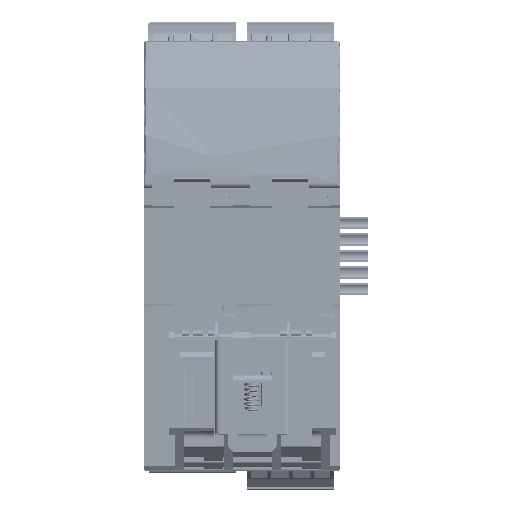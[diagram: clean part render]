
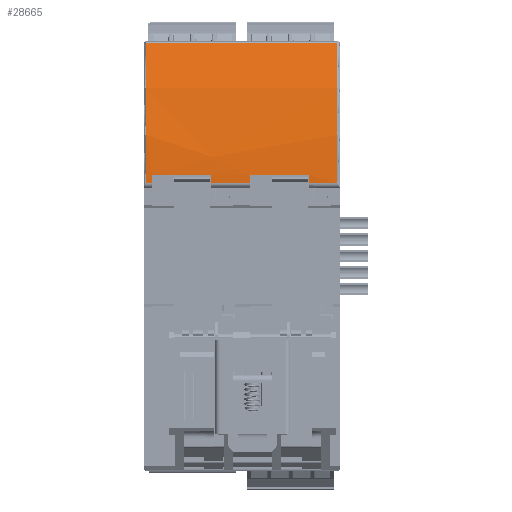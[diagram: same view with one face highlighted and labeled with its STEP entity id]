
A CAD part, left-side view. The second image highlights one B-rep face of the part: STEP entity #28665.
In plain terms, the highlighted cylindrical face has radius 80 mm (diameter 160 mm), a partial arc.
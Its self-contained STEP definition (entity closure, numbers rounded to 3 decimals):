
#28665=ADVANCED_FACE('',(#95792,#95794),#95796,.T.);
#95792=FACE_BOUND('',#95793,.T.);
#95793=EDGE_LOOP('',(#161624,#161625,#161626,#161627,#161628,#161629,#161630,#161631,
#161632,#161633,#161634,#161635));
#95794=FACE_BOUND('',#95795,.T.);
#95795=EDGE_LOOP('',(#161636,#161637,#161638));
#95796=CYLINDRICAL_SURFACE('',#95797,80.);
#95797=AXIS2_PLACEMENT_3D('',#95798,#95799,#95800);
#95798=CARTESIAN_POINT('',(75.75,23.85,13.5));
#95799=DIRECTION('',(0.,1.,0.));
#95800=DIRECTION('',(0.,0.,1.));
#161624=ORIENTED_EDGE('',*,*,#212356,.F.);
#161625=ORIENTED_EDGE('',*,*,#212319,.T.);
#161626=ORIENTED_EDGE('',*,*,#212317,.T.);
#161627=ORIENTED_EDGE('',*,*,#210632,.F.);
#161628=ORIENTED_EDGE('',*,*,#210619,.T.);
#161629=ORIENTED_EDGE('',*,*,#210661,.F.);
#161630=ORIENTED_EDGE('',*,*,#213402,.F.);
#161631=ORIENTED_EDGE('',*,*,#213373,.T.);
#161632=ORIENTED_EDGE('',*,*,#213361,.F.);
#161633=ORIENTED_EDGE('',*,*,#213381,.F.);
#161634=ORIENTED_EDGE('',*,*,#212506,.F.);
#161635=ORIENTED_EDGE('',*,*,#212504,.T.);
#161636=ORIENTED_EDGE('',*,*,#210664,.F.);
#161637=ORIENTED_EDGE('',*,*,#210663,.T.);
#161638=ORIENTED_EDGE('',*,*,#210612,.F.);
#210612=EDGE_CURVE('',#244721,#244723,#244724,.T.);
#210619=EDGE_CURVE('',#244732,#244730,#244733,.T.);
#210632=EDGE_CURVE('',#244732,#244754,#244755,.T.);
#210661=EDGE_CURVE('',#244797,#244730,#244799,.T.);
#210663=EDGE_CURVE('',#244800,#244723,#244802,.T.);
#210664=EDGE_CURVE('',#244800,#244721,#244803,.T.);
#212317=EDGE_CURVE('',#247808,#244754,#247809,.T.);
#212319=EDGE_CURVE('',#247811,#247808,#247812,.T.);
#212356=EDGE_CURVE('',#247811,#247873,#247874,.T.);
#212504=EDGE_CURVE('',#248112,#247873,#248113,.T.);
#212506=EDGE_CURVE('',#248112,#248115,#248116,.T.);
#213361=EDGE_CURVE('',#249497,#249499,#249500,.T.);
#213373=EDGE_CURVE('',#249519,#249499,#249520,.T.);
#213381=EDGE_CURVE('',#248115,#249497,#249530,.T.);
#213402=EDGE_CURVE('',#249519,#244797,#249562,.T.);
#244721=VERTEX_POINT('',#304100);
#244723=VERTEX_POINT('',#304104);
#244724=LINE('',#304105,#304106);
#244730=VERTEX_POINT('',#304123);
#244732=VERTEX_POINT('',#304127);
#244733=LINE('',#304128,#304129);
#244754=VERTEX_POINT('',#304175);
#244755=CIRCLE('',#304176,80.);
#244797=VERTEX_POINT('',#304277);
#244799=CIRCLE('',#304282,80.);
#244800=VERTEX_POINT('',#304286);
#244802=CIRCLE('',#304290,80.);
#244803=(BOUNDED_CURVE()B_SPLINE_CURVE(3,
(#304294,#304295,#304296,#304297),
.UNSPECIFIED.,.F.,.F.)B_SPLINE_CURVE_WITH_KNOTS((4,4),
(0.,1.),
.UNSPECIFIED.)CURVE()GEOMETRIC_REPRESENTATION_ITEM()RATIONAL_B_SPLINE_CURVE((1.,
1.,1.,1.))REPRESENTATION_ITEM(''));
#247808=VERTEX_POINT('',#319820);
#247809=LINE('',#319821,#319822);
#247811=VERTEX_POINT('',#319872);
#247812=CIRCLE('',#319873,80.);
#247873=VERTEX_POINT('',#320043);
#247874=LINE('',#320044,#320045);
#248112=VERTEX_POINT('',#320603);
#248113=CIRCLE('',#320604,80.);
#248115=VERTEX_POINT('',#320657);
#248116=LINE('',#320658,#320659);
#249497=VERTEX_POINT('',#323904);
#249499=VERTEX_POINT('',#323908);
#249500=LINE('',#323909,#323910);
#249519=VERTEX_POINT('',#323952);
#249520=CIRCLE('',#323953,80.);
#249530=CIRCLE('',#323982,80.);
#249562=LINE('',#324064,#324065);
#304100=CARTESIAN_POINT('',(-3.696,29.4,22.9));
#304104=CARTESIAN_POINT('',(-3.696,29.7,22.9));
#304105=CARTESIAN_POINT('',(-3.696,29.4,22.9));
#304106=VECTOR('',#304107,1.);
#304107=DIRECTION('',(0.,1.,0.));
#304123=CARTESIAN_POINT('',(-4.081,29.7,18.7));
#304127=CARTESIAN_POINT('',(-4.081,43.3,18.7));
#304128=CARTESIAN_POINT('',(-4.081,43.3,18.7));
#304129=VECTOR('',#304130,1.);
#304130=DIRECTION('',(0.,-1.,0.));
#304175=CARTESIAN_POINT('',(-4.184,43.3,16.741));
#304176=AXIS2_PLACEMENT_3D('',#304177,#304178,#304179);
#304177=CARTESIAN_POINT('',(75.75,43.3,13.5));
#304178=DIRECTION('',(0.,-1.,0.));
#304179=DIRECTION('',(-0.998,0.,0.065));
#304277=CARTESIAN_POINT('',(-4.184,29.7,16.741));
#304282=AXIS2_PLACEMENT_3D('',#304283,#304284,#304285);
#304283=CARTESIAN_POINT('',(75.75,29.7,13.5));
#304284=DIRECTION('',(0.,1.,0.));
#304285=DIRECTION('',(-0.999,0.,0.041));
#304286=CARTESIAN_POINT('',(-3.731,29.7,22.6));
#304290=AXIS2_PLACEMENT_3D('',#304291,#304292,#304293);
#304291=CARTESIAN_POINT('',(75.75,29.7,13.5));
#304292=DIRECTION('',(0.,1.,0.));
#304293=DIRECTION('',(-0.994,0.,0.114));
#304294=CARTESIAN_POINT('',(-3.731,29.7,22.6));
#304295=CARTESIAN_POINT('',(-3.719,29.6,22.7));
#304296=CARTESIAN_POINT('',(-3.708,29.5,22.8));
#304297=CARTESIAN_POINT('',(-3.696,29.4,22.9));
#319820=CARTESIAN_POINT('',(-4.184,44.7,16.741));
#319821=CARTESIAN_POINT('',(-4.184,44.7,16.741));
#319822=VECTOR('',#319823,1.);
#319823=DIRECTION('',(0.,-1.,0.));
#319872=CARTESIAN_POINT('',(4.169,44.7,49.223));
#319873=AXIS2_PLACEMENT_3D('',#319874,#319875,#319876);
#319874=CARTESIAN_POINT('',(75.75,44.7,13.5));
#319875=DIRECTION('',(0.,-1.,0.));
#319876=DIRECTION('',(-0.895,0.,0.447));
#320043=CARTESIAN_POINT('',(4.169,0.5,49.223));
#320044=CARTESIAN_POINT('',(4.169,44.7,49.223));
#320045=VECTOR('',#320046,1.);
#320046=DIRECTION('',(0.,-1.,0.));
#320603=CARTESIAN_POINT('',(-4.184,0.5,16.741));
#320604=AXIS2_PLACEMENT_3D('',#320605,#320606,#320607);
#320605=CARTESIAN_POINT('',(75.75,0.5,13.5));
#320606=DIRECTION('',(0.,1.,0.));
#320607=DIRECTION('',(-0.999,0.,0.041));
#320657=CARTESIAN_POINT('',(-4.184,7.1,16.741));
#320658=CARTESIAN_POINT('',(-4.184,0.5,16.741));
#320659=VECTOR('',#320660,1.);
#320660=DIRECTION('',(0.,1.,0.));
#323904=CARTESIAN_POINT('',(-4.081,7.1,18.7));
#323908=CARTESIAN_POINT('',(-4.081,20.7,18.7));
#323909=CARTESIAN_POINT('',(-4.081,7.1,18.7));
#323910=VECTOR('',#323911,1.);
#323911=DIRECTION('',(0.,1.,0.));
#323952=CARTESIAN_POINT('',(-4.184,20.7,16.741));
#323953=AXIS2_PLACEMENT_3D('',#323954,#323955,#323956);
#323954=CARTESIAN_POINT('',(75.75,20.7,13.5));
#323955=DIRECTION('',(0.,1.,0.));
#323956=DIRECTION('',(-0.999,0.,0.041));
#323982=AXIS2_PLACEMENT_3D('',#323983,#323984,#323985);
#323983=CARTESIAN_POINT('',(75.75,7.1,13.5));
#323984=DIRECTION('',(0.,1.,0.));
#323985=DIRECTION('',(-0.999,0.,0.041));
#324064=CARTESIAN_POINT('',(-4.184,20.7,16.741));
#324065=VECTOR('',#324066,1.);
#324066=DIRECTION('',(0.,1.,0.));
